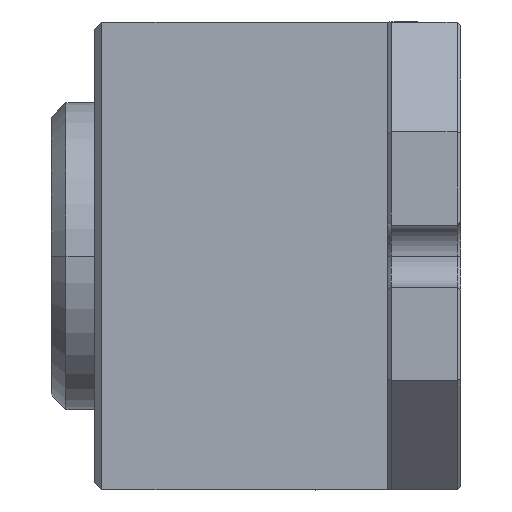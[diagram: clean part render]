
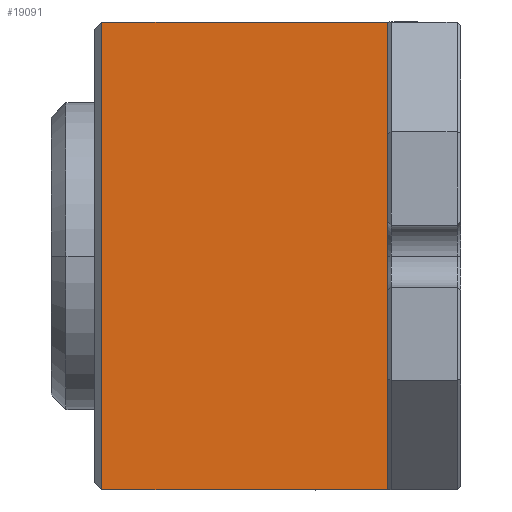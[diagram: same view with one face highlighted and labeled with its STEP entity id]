
A CAD part, left-side view. The second image highlights one B-rep face of the part: STEP entity #19091.
In plain terms, the highlighted planar face has unit normal (-1, 0, 0).
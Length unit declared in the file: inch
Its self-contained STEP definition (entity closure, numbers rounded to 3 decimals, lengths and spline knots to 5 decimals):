
#769 = LINE ( 'NONE', #34323, #35698 ) ;
#2717 = VECTOR ( 'NONE', #53003, 39.37008 ) ;
#3017 = AXIS2_PLACEMENT_3D ( 'NONE', #64704, #26325, #36728 ) ;
#5546 = DIRECTION ( 'NONE',  ( 0., 1., 0. ) ) ;
#7706 = ORIENTED_EDGE ( 'NONE', *, *, #35464, .T. ) ;
#8254 = VECTOR ( 'NONE', #5546, 39.37008 ) ;
#10881 = LINE ( 'NONE', #21218, #8254 ) ;
#10951 = CARTESIAN_POINT ( 'NONE',  ( -2., 3.068, 2. ) ) ;
#13010 = ORIENTED_EDGE ( 'NONE', *, *, #17202, .F. ) ;
#17202 = EDGE_CURVE ( 'NONE', #52096, #31321, #10881, .T. ) ;
#17540 = EDGE_CURVE ( 'NONE', #51168, #62995, #769, .T. ) ;
#18740 = ORIENTED_EDGE ( 'NONE', *, *, #23438, .T. ) ;
#19091 = ADVANCED_FACE ( 'NONE', ( #44791 ), #42871, .T. ) ;
#21218 = CARTESIAN_POINT ( 'NONE',  ( -2., 0.98, -2. ) ) ;
#21804 = CARTESIAN_POINT ( 'NONE',  ( -2., 0.625, -2.17969 ) ) ;
#23438 = EDGE_CURVE ( 'NONE', #52096, #51168, #59793, .T. ) ;
#24061 = CARTESIAN_POINT ( 'NONE',  ( -2., 0.625, 2. ) ) ;
#24604 = VECTOR ( 'NONE', #68566, 39.37008 ) ;
#26325 = DIRECTION ( 'NONE',  ( -1., 0., 0. ) ) ;
#30568 = LINE ( 'NONE', #41404, #24604 ) ;
#31321 = VERTEX_POINT ( 'NONE', #37684 ) ;
#34323 = CARTESIAN_POINT ( 'NONE',  ( -2., 0.98, 2. ) ) ;
#35464 = EDGE_CURVE ( 'NONE', #62995, #31321, #30568, .T. ) ;
#35698 = VECTOR ( 'NONE', #55551, 39.37008 ) ;
#36169 = ORIENTED_EDGE ( 'NONE', *, *, #17540, .T. ) ;
#36728 = DIRECTION ( 'NONE',  ( 0., 0., 1. ) ) ;
#37684 = CARTESIAN_POINT ( 'NONE',  ( -2., 3.068, -2. ) ) ;
#41404 = CARTESIAN_POINT ( 'NONE',  ( -2., 3.068, -2. ) ) ;
#42871 = PLANE ( 'NONE',  #3017 ) ;
#44791 = FACE_OUTER_BOUND ( 'NONE', #60663, .T. ) ;
#51168 = VERTEX_POINT ( 'NONE', #24061 ) ;
#52096 = VERTEX_POINT ( 'NONE', #70513 ) ;
#53003 = DIRECTION ( 'NONE',  ( 0., 0., 1. ) ) ;
#55551 = DIRECTION ( 'NONE',  ( 0., 1., 0. ) ) ;
#59793 = LINE ( 'NONE', #21804, #2717 ) ;
#60663 = EDGE_LOOP ( 'NONE', ( #36169, #7706, #13010, #18740 ) ) ;
#62995 = VERTEX_POINT ( 'NONE', #10951 ) ;
#64704 = CARTESIAN_POINT ( 'NONE',  ( -2., 0.625, -2.17969 ) ) ;
#68566 = DIRECTION ( 'NONE',  ( 0., 0., -1. ) ) ;
#70513 = CARTESIAN_POINT ( 'NONE',  ( -2., 0.625, -2. ) ) ;
